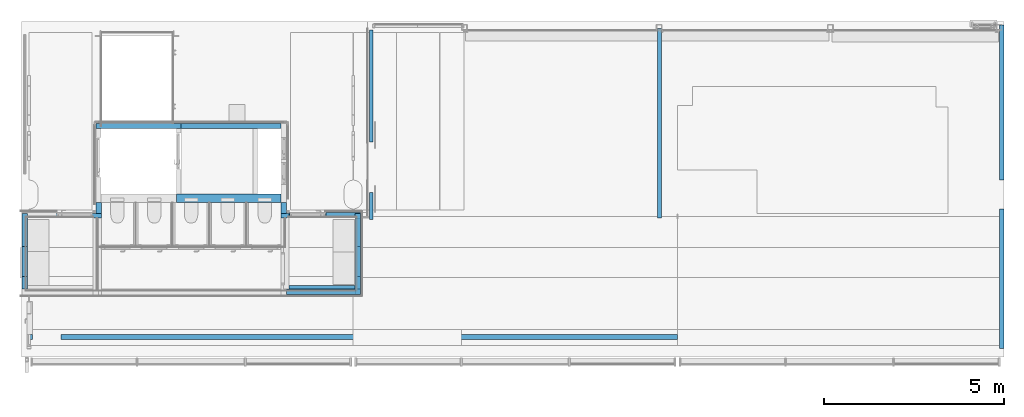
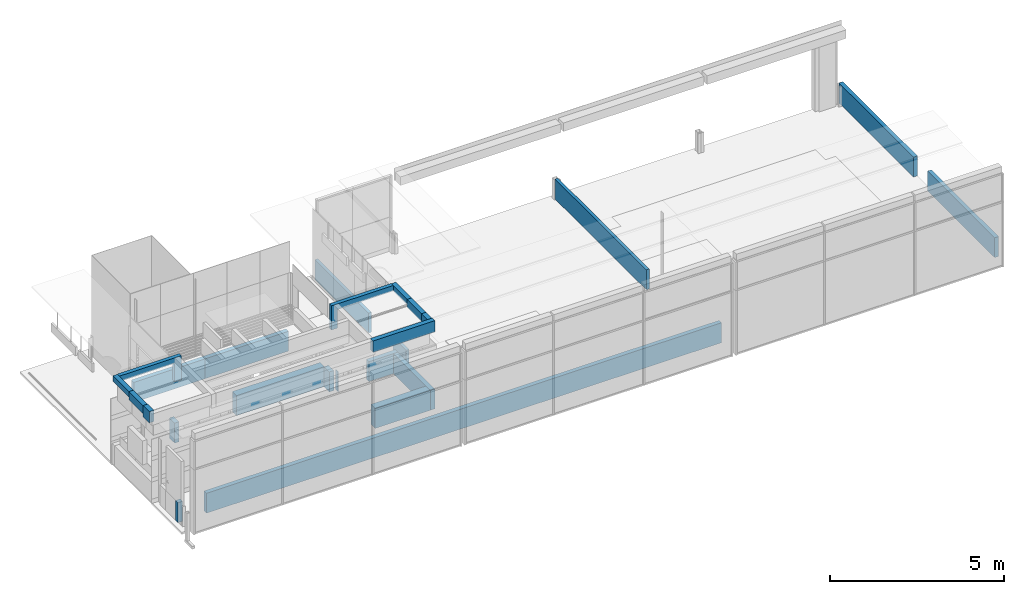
# One storey, part 17 of 26: 23 walls, 4 openings.
"""IFC2X3 building model written with IfcOpenShell, lengths in millimetres."""

from ifc_helpers import new_model, entity, si_unit, converted_unit, derived_unit, direction, frame, frame_2d, origin, origin_with_axes, place, context, subcontext, project, spatial, rectangle, extrude, clip, halfspace, faceted_brep, material, layer, layer_set, layer_usage, type_object, element, save


model = new_model("IFC2X3")

# Units and contexts
model_context = context("Model", 3, precision=0.01, world=frame((0.0, 4.29681676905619e-09, 0.0)), true_north=direction((4.01073788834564e-13, 1.0)))
plan_context = context("Plan", 3, precision=0.01, world=frame((0.0, 4.29681676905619e-09, 0.0)), true_north=direction((4.01073788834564e-13, 1.0)))
body_context = subcontext(model_context, "Body", "Model", "MODEL_VIEW")
ifc_project = project(units=[converted_unit("PLANEANGLEUNIT", "DEGREE", entity("IfcPositiveLengthMeasure", 0.0174532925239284), si_unit("PLANEANGLEUNIT", "RADIAN"), dimensions=[0, 0, 0, 0, 0, 0, 0]), si_unit("AREAUNIT", "SQUARE_METRE"), si_unit("LENGTHUNIT", "METRE", prefix="MILLI"), si_unit("MASSUNIT", "GRAM", prefix="KILO"), si_unit("POWERUNIT", "WATT"), si_unit("PRESSUREUNIT", "PASCAL", prefix="KILO"), si_unit("FORCEUNIT", "NEWTON", prefix="KILO"), si_unit("ELECTRICVOLTAGEUNIT", "VOLT"), si_unit("ELECTRICCURRENTUNIT", "AMPERE"), si_unit("THERMODYNAMICTEMPERATUREUNIT", "DEGREE_CELSIUS"), si_unit("TIMEUNIT", "SECOND"), si_unit("VOLUMEUNIT", "CUBIC_METRE"), derived_unit("LINEARVELOCITYUNIT", [(si_unit("LENGTHUNIT", "METRE"), 1), (si_unit("TIMEUNIT", "SECOND"), -1)]), derived_unit("VOLUMETRICFLOWRATEUNIT", [(si_unit("VOLUMEUNIT", "CUBIC_METRE"), 1), (si_unit("TIMEUNIT", "SECOND"), -1)]), derived_unit("THERMALTRANSMITTANCEUNIT", [(si_unit("POWERUNIT", "WATT"), 1), (si_unit("THERMODYNAMICTEMPERATUREUNIT", "KELVIN"), -1), (si_unit("AREAUNIT", "SQUARE_METRE"), -1)]), derived_unit("SOUNDPRESSUREUNIT", [(si_unit("PRESSUREUNIT", "PASCAL"), 1)])], contexts=[model_context, plan_context])

# Site, building, storey
site_placement = place(None, origin_with_axes())
site = spatial("IfcSite", under=ifc_project, at=site_placement, Name="ENGM", CompositionType="ELEMENT")
building_placement = place(site_placement, origin_with_axes())
building = spatial("IfcBuilding", under=site, at=building_placement, Name="TG", CompositionType="ELEMENT")
storey_placement = place(building_placement, frame((0.0, 0.0, 210200.0), z_axis=(0.0, 0.0, 1.0), x_axis=(1.0, 0.0, 0.0)))
storey = spatial("IfcBuildingStorey", under=building, at=storey_placement, Name="Nivå F - 0,7 m", CompositionType="ELEMENT", Elevation=210200.0)

# Walls
ifc_material_1 = material(Name="T2_Gips Protect F")
ifc_layer_1 = layer(ifc_material_1, 15.0)
ifc_material_2 = material(Name="T2_Gips Standard")
ifc_layer_2 = layer(ifc_material_2, 12.5)
ifc_material_3 = material(Name="_NSW Stålstender, uisolert")
ifc_layer_3 = layer(ifc_material_3, 100.0)
ifc_layer_4 = layer(ifc_material_1, 15.0)
ifc_layer_set_1 = layer_set([ifc_layer_1, ifc_layer_2, ifc_layer_3, ifc_layer_4], Name="Basic Wall:A241 - FSVF-100")
wall_type_1 = type_object("IfcWallType", Name="Basic Wall:A241 - FSVF-100", PredefinedType="STANDARD", material=ifc_layer_set_1)
wall_1_placement = place(storey_placement, frame((329001.249999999, 464602.500000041, 0.0), z_axis=(0.0, 0.0, 1.0), x_axis=(-1.0, 0.0, 0.0)))
element("IfcWall", 1, at=wall_1_placement, inside=storey, type_object=wall_type_1, Name="Basic Wall:A241 - FSVF-100", ObjectType="Basic Wall:A241 - FSVF-100", context=body_context, shape_type="Brep", body=[
    faceted_brep([(0.0, -71.25, 0.0), (2781.25000000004, -71.25, 0.0), (2781.25000000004, -71.25, 700.0), (0.0, -71.25, 700.0), (2781.25000000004, 71.25, 0.0), (785.74999999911, 71.2500000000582, 0.0), (655.74999999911, 71.2500000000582, 0.0), (0.0, 71.25, 0.0), (0.0, 71.25, 700.0), (2781.25000000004, 71.25, 700.0)], [[[0, 1, 2, 3]], [[4, 5, 6, 7, 8, 9]], [[1, 0, 7, 6, 5, 4]], [[1, 4, 9, 2]], [[7, 0, 3, 8]], [[3, 2, 9, 8]]]),
])
wall_2_placement = place(storey_placement, frame((326220.0, 464602.50000004, 0.0), z_axis=(0.0, 0.0, 1.0), x_axis=(-1.0, 0.0, 0.0)))
element("IfcWall", 2, at=wall_2_placement, inside=storey, type_object=wall_type_1, Name="Basic Wall:A241 - FSVF-100", ObjectType="Basic Wall:A241 - FSVF-100", context=body_context, shape_type="Brep", body=[
    faceted_brep([(0.0, -71.25, 0.0), (2359.74999999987, -71.2499999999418, 0.0), (2359.74999999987, -71.2499999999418, 700.0), (0.0, -71.25, 700.0), (2359.74999999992, 71.2500000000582, 0.0), (2217.24999999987, 71.2500000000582, 0.0), (130.0, 71.2500000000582, 0.0), (0.0, 71.25, 0.0), (0.0, 71.25, 700.0), (2359.74999999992, 71.2500000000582, 700.0)], [[[0, 1, 2, 3]], [[4, 5, 6, 7, 8, 9]], [[1, 0, 7, 6, 5, 4]], [[1, 4, 9, 2]], [[7, 0, 3, 8]], [[3, 2, 9, 8]]]),
])
ifc_layer_5 = layer(ifc_material_1, 15.0)
ifc_layer_6 = layer(ifc_material_1, 15.0)
ifc_material_4 = material(Name="_NSW Stålstender, isolert uten skravur")
ifc_layer_7 = layer(ifc_material_4, 200.0)
ifc_material_5 = material(Name="T2_Gips Fibergips")
ifc_layer_8 = layer(ifc_material_5, 12.5)
ifc_layer_set_2 = layer_set([ifc_layer_5, ifc_layer_6, ifc_layer_7, ifc_layer_8], Name="Basic Wall:A241 - FVR-200 (T1)")
wall_type_2 = type_object("IfcWallType", Name="Basic Wall:A241 - FVR-200 (T1)", PredefinedType="STANDARD", material=ifc_layer_set_2)
wall_3_placement = place(storey_placement, frame((326090.0, 462600.000000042, 0.0), z_axis=(0.0, 0.0, 1.0), x_axis=(1.0, 0.0, 0.0)))
element("IfcWall", 3, at=wall_3_placement, inside=storey, type_object=wall_type_2, Name="Basic Wall:A241 - FVR-200 (T1)", ObjectType="Basic Wall:A241 - FVR-200 (T1)", context=body_context, shape_type="Brep", body=[
    faceted_brep([(0.0, -121.249999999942, 0.0), (857.500000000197, -121.249999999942, 0.0), (982.500000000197, -121.249999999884, 0.0), (1880.5000000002, -121.249999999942, 0.0), (2005.5000000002, -121.249999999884, 0.0), (2903.50000000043, -121.249999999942, 0.0), (2903.50000000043, -121.249999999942, 700.0), (0.0, -121.249999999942, 700.0), (2911.25000000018, 121.250000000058, 0.0), (2255.49999999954, 121.250000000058, 0.0), (2125.49999999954, 121.250000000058, 0.0), (130.0, 121.250000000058, 0.0), (0.0, 121.250000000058, 0.0), (0.0, 121.250000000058, 700.0), (2911.25000000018, 121.250000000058, 700.0), (2911.25000000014, -120.399999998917, 0.0), (2903.50000000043, -120.399999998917, 0.0), (2903.50000000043, -120.399999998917, 700.0), (2911.25000000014, -120.399999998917, 700.0)], [[[0, 1, 2, 3, 4, 5, 6, 7]], [[8, 9, 10, 11, 12, 13, 14]], [[1, 0, 12, 11, 10, 9, 8, 15, 16, 5, 4, 3, 2]], [[5, 16, 17, 6]], [[12, 0, 7, 13]], [[16, 15, 18, 17]], [[15, 8, 14, 18]], [[7, 6, 17, 18, 14, 13]]]),
])
ifc_material_6 = material(Name="Plate - Gips")
ifc_layer_9 = layer(ifc_material_6, 12.5)
ifc_layer_10 = layer(ifc_material_6, 12.5)
ifc_layer_11 = layer(ifc_material_3, 200.0)
ifc_layer_12 = layer(ifc_material_6, 12.5)
ifc_layer_13 = layer(ifc_material_6, 12.5)
ifc_layer_set_3 = layer_set([ifc_layer_9, ifc_layer_10, ifc_layer_11, ifc_layer_12, ifc_layer_13], Name="Basic Wall:A241 - Eksisterende - GSVS-50")
ifc_layer_usage_1 = layer_usage(ifc_layer_set_3, "AXIS2", "NEGATIVE", 125.0)
wall_type_3 = type_object("IfcWallType", Name="Basic Wall:A241 - Eksisterende - GSVS-50", PredefinedType="STANDARD", material=ifc_layer_set_3)
wall_4_placement = place(storey_placement, frame((329218.5, 460049.600000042, 0.0), z_axis=(0.0, 0.0, 1.0), x_axis=(1.0, 0.0, 0.0)))
element("IfcWallStandardCase", 4, at=wall_4_placement, inside=storey, type_object=wall_type_3, material=ifc_layer_usage_1, Name="Basic Wall:A241 - Eksisterende - GSVS-50", ObjectType="Basic Wall:A241 - Eksisterende - GSVS-50", context=body_context, shape_type="Clipping", body=[
    clip(extrude(rectangle(XDim=1830.49999999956, YDim=249.999999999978, at=frame_2d((915.249999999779, -1.07434061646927e-11), x_axis=(-1.0, 0.0))), origin(), (0.0, 0.0, 1.0), 700.000000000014), halfspace(origin(), True)),
])
ifc_layer_14 = layer(ifc_material_6, 12.5)
ifc_layer_15 = layer(ifc_material_6, 12.5)
ifc_layer_16 = layer(ifc_material_3, 100.0)
ifc_layer_17 = layer(ifc_material_6, 12.5)
ifc_layer_18 = layer(ifc_material_6, 12.5)
ifc_layer_set_4 = layer_set([ifc_layer_14, ifc_layer_15, ifc_layer_16, ifc_layer_17, ifc_layer_18], Name="Basic Wall:A241 - Eksisterende - GSVS-30")
ifc_layer_usage_2 = layer_usage(ifc_layer_set_4, "AXIS2", "NEGATIVE", 75.0)
wall_type_4 = type_object("IfcWallType", Name="Basic Wall:A241 - Eksisterende - GSVS-30", PredefinedType="STANDARD", material=ifc_layer_set_4)
wall_5_placement = place(storey_placement, frame((331124.0, 462049.600000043, 0.0), z_axis=(0.0, 0.0, 1.0), x_axis=(0.0, -1.0, 0.0)))
element("IfcWallStandardCase", 5, at=wall_5_placement, inside=storey, type_object=wall_type_4, material=ifc_layer_usage_2, Name="Basic Wall:A241 - Eksisterende - GSVS-30", ObjectType="Basic Wall:A241 - Eksisterende - GSVS-30", context=body_context, shape_type="Clipping", body=[
    clip(extrude(rectangle(XDim=2125.00000000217, YDim=150.000000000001, at=frame_2d((1062.50000000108, -5.90816284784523e-11), x_axis=(-1.0, 0.0))), origin(), (0.0, 0.0, 1.0), 700.000000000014), halfspace(origin(), True)),
])

# Wall, opening
ifc_layer_usage_3 = layer_usage(ifc_layer_set_4, "AXIS2", "NEGATIVE", 75.0)
wall_6_placement = place(storey_placement, frame((331199.0, 462124.600000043, 0.0), z_axis=(0.0, 0.0, 1.0), x_axis=(-1.0, 0.0, 0.0)))
wall_6 = element("IfcWallStandardCase", 6, at=wall_6_placement, inside=storey, type_object=wall_type_4, material=ifc_layer_usage_3, Name="Basic Wall:A241 - Eksisterende - GSVS-30", ObjectType="Basic Wall:A241 - Eksisterende - GSVS-30", context=body_context, shape_type="Clipping", body=[
    clip(extrude(rectangle(XDim=150.000000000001, YDim=1980.49999999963, at=frame_2d((990.249999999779, -1.51487711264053e-11), x_axis=(0.0, -1.0))), origin(), (0.0, 0.0, 1.0), 700.000000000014), halfspace(origin(), True)),
])
opening_1_placement = place(wall_6_placement, frame((1969.99999480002, 75.0, 0.0), z_axis=(0.0, 0.0, 1.0), x_axis=(1.0, 0.0, 0.0)))
element("IfcOpeningElement", 7, at=opening_1_placement, cuts=wall_6, Name="A20 - Slagdør - Enkel:A243 - DI_LTO - 0990 x 2240 mm:1", ObjectType="Opening", context=body_context, shape_type="SweptSolid", body=[
    extrude(rectangle(XDim=2259.99999999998, YDim=1010.0, at=frame_2d((1129.99999999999, 505.0), x_axis=(1.0, 0.0))), frame((0.0, 0.0, 0.0), z_axis=(0.0, -1.0, 0.0), x_axis=(0.0, 0.0, 1.0)), (0.0, 0.0, 1.0), 150.0),
])

# Walls
ifc_layer_usage_4 = layer_usage(ifc_layer_set_4, "AXIS2", "POSITIVE", -75.0)
wall_7_placement = place(storey_placement, frame((329068.500000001, 462173.599999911, 0.0), z_axis=(0.0, 0.0, 1.0), x_axis=(0.0, 1.0, 0.0)))
element("IfcWallStandardCase", 8, at=wall_7_placement, inside=storey, type_object=wall_type_4, material=ifc_layer_usage_4, Name="Basic Wall:A241 - Eksisterende - GSVS-30", ObjectType="Basic Wall:A241 - Eksisterende - GSVS-30", context=body_context, shape_type="Clipping", body=[
    clip(extrude(rectangle(XDim=306.000000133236, YDim=150.000000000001, at=frame_2d((153.000000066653, -2.65742983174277e-11), x_axis=(-1.0, 0.0))), origin(), (0.0, 0.0, 1.0), 700.000000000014), halfspace(origin(), True)),
])
ifc_layer_usage_5 = layer_usage(ifc_layer_set_4, "AXIS2", "POSITIVE", -75.0)
wall_8_placement = place(storey_placement, frame((323931.5, 462478.600000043, 0.0), z_axis=(0.0, 0.0, 1.0), x_axis=(0.0, -1.0, 0.0)))
element("IfcWallStandardCase", 9, at=wall_8_placement, inside=storey, type_object=wall_type_4, material=ifc_layer_usage_5, Name="Basic Wall:A241 - Eksisterende - GSVS-30", ObjectType="Basic Wall:A241 - Eksisterende - GSVS-30", context=body_context, shape_type="Clipping", body=[
    clip(extrude(rectangle(XDim=304.999999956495, YDim=150.000000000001, at=frame_2d((152.499999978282, -2.6801671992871e-11), x_axis=(-1.0, 0.0))), origin(), (0.0, 0.0, 1.0), 700.000000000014), halfspace(origin(), True)),
])
ifc_layer_19 = layer(ifc_material_6, 12.5)
ifc_layer_20 = layer(ifc_material_3, 75.0)
ifc_layer_21 = layer(ifc_material_6, 12.5)
ifc_layer_set_5 = layer_set([ifc_layer_19, ifc_layer_20, ifc_layer_21], Name="Basic Wall:A241 - Eksisterende - GSVS-11")
ifc_layer_usage_6 = layer_usage(ifc_layer_set_5, "AXIS2", "NEGATIVE", 50.0)
wall_type_5 = type_object("IfcWallType", Name="Basic Wall:A241 - Eksisterende - GSVS-11", PredefinedType="STANDARD", material=ifc_layer_set_5)
wall_9_placement = place(storey_placement, frame((339502.157623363, 467303.499999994, 0.0), z_axis=(0.0, 0.0, 1.0), x_axis=(0.0, -1.0, 0.0)))
element("IfcWallStandardCase", 10, at=wall_9_placement, inside=storey, type_object=wall_type_5, material=ifc_layer_usage_6, Name="Basic Wall:A241 - Eksisterende - GSVS-11", ObjectType="Basic Wall:A241 - Eksisterende - GSVS-11", context=body_context, shape_type="Clipping", body=[
    clip(extrude(rectangle(XDim=5252.80408787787, YDim=99.9999999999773, at=frame_2d((2626.40204393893, 3.46531692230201e-11), x_axis=(-1.0, 0.0))), origin(), (0.0, 0.0, 1.0), 700.000000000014), halfspace(origin(), True)),
])

# Wall, openings
ifc_layer_usage_7 = layer_usage(ifc_layer_set_5, "AXIS2", "NEGATIVE", 50.0)
wall_10_placement = place(storey_placement, frame((331498.69226286, 467260.742801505, 0.0), z_axis=(0.0, 0.0, 1.0), x_axis=(0.0, -1.0, 0.0)))
wall_10 = element("IfcWallStandardCase", 11, at=wall_10_placement, inside=storey, type_object=wall_type_5, material=ifc_layer_usage_7, Name="Basic Wall:A241 - Eksisterende - GSVS-11", ObjectType="Basic Wall:A241 - Eksisterende - GSVS-11", context=body_context, shape_type="Clipping", body=[
    clip(extrude(rectangle(XDim=5253.86896894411, YDim=99.9999999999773, at=frame_2d((2626.93448447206, 3.46531692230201e-11), x_axis=(1.0, 0.0))), origin(), (0.0, 0.0, 1.0), 700.000000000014), halfspace(origin(), True)),
])
opening_2_placement = place(wall_10_placement, frame((4497.4017700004, 50.0, 0.0), z_axis=(0.0, 0.0, 1.0), x_axis=(1.0, 0.0, 0.0)))
element("IfcOpeningElement", 12, at=opening_2_placement, cuts=wall_10, Name="single_panel_sliding_door_whafele_hrdw_parametric_2015:single_panel_sliding_door_whafele_hrdw_parametric_7m:1", ObjectType="Opening", context=body_context, shape_type="SweptSolid", body=[
    extrude(rectangle(XDim=2133.6, YDim=699.999999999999, at=frame_2d((1066.8, 350.000000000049), x_axis=(1.0, 0.0))), frame((0.0, 0.0, 0.0), z_axis=(0.0, -1.0, 0.0), x_axis=(0.0, 0.0, 1.0)), (0.0, 0.0, 1.0), 100.0),
])
opening_3_placement = place(wall_10_placement, frame((3797.40177000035, 50.0, 0.0), z_axis=(0.0, 0.0, 1.0), x_axis=(1.0, 0.0, 0.0)))
element("IfcOpeningElement", 13, at=opening_3_placement, cuts=wall_10, Name="single_panel_sliding_door_whafele_hrdw_parametric_2015:single_panel_sliding_door_whafele_hrdw_parametric_7m:1", ObjectType="Opening", context=body_context, shape_type="SweptSolid", body=[
    extrude(rectangle(XDim=2133.6, YDim=699.999999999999, at=frame_2d((1066.8, 350.0), x_axis=(1.0, 0.0))), frame((0.0, 0.0, 0.0), z_axis=(0.0, -1.0, 0.0), x_axis=(0.0, 0.0, 1.0)), (0.0, 0.0, 1.0), 100.0),
])

# Walls
ifc_layer_usage_8 = layer_usage(ifc_layer_set_5, "AXIS2", "NEGATIVE", 50.0)
wall_11_placement = place(storey_placement, frame((339502.157623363, 467303.499999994, 0.0), z_axis=(0.0, 0.0, 1.0), x_axis=(0.0, -1.0, 0.0)))
element("IfcWallStandardCase", 14, at=wall_11_placement, inside=storey, type_object=wall_type_5, material=ifc_layer_usage_8, Name="Basic Wall:A241 - Eksisterende - GSVS-11", ObjectType="Basic Wall:A241 - Eksisterende - GSVS-11", context=body_context, shape_type="Clipping", body=[
    clip(extrude(rectangle(XDim=5252.80408787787, YDim=99.9999999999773, at=frame_2d((2626.40204393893, 3.46531692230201e-11), x_axis=(-1.0, 0.0))), origin(), (0.0, 0.0, 1.0), 700.000000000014), halfspace(origin(), True)),
])
ifc_layer_22 = layer(ifc_material_6, 12.5)
ifc_layer_23 = layer(ifc_material_3, 100.0)
ifc_layer_24 = layer(ifc_material_6, 12.5)
ifc_layer_set_6 = layer_set([ifc_layer_22, ifc_layer_23, ifc_layer_24], Name="Basic Wall:A241 - Skjørt - SVS-100 S")
wall_type_6 = type_object("IfcWallType", Name="Basic Wall:A241 - Skjørt - SVS-100 S", PredefinedType="STANDARD", material=ifc_layer_set_6)
wall_12_placement = place(storey_placement, frame((324006.25, 462111.100000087, 2250.0), z_axis=(0.0, 0.0, 1.0), x_axis=(-1.0, 0.0, 0.0)))
element("IfcWall", 15, at=wall_12_placement, inside=storey, type_object=wall_type_6, Name="Basic Wall:A241 - Skjørt - SVS-100 S", ObjectType="Basic Wall:A241 - Skjørt - SVS-100 S", context=body_context, shape_type="Brep", body=[
    faceted_brep([(2051.24999999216, -62.4999999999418, 844.999999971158), (0.0, -62.5, 844.999999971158), (0.0, -62.5, 0.0), (224.750000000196, -62.5, 0.0), (224.750000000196, -62.5, 650.0), (2051.24999999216, -62.4999999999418, 650.0), (0.0, 62.5, 844.999999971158), (2051.24999999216, 62.5000000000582, 844.999999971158), (2051.24999999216, 62.5000000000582, 650.0), (224.750000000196, 62.5, 650.0), (224.750000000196, 62.5, 0.0), (0.0, 62.5, 0.0)], [[[0, 1, 2, 3, 4, 5]], [[6, 7, 8, 9, 10, 11]], [[2, 11, 10, 3]], [[7, 0, 5, 8]], [[1, 0, 7, 6]], [[2, 1, 6, 11]], [[9, 4, 3, 10]], [[4, 9, 8, 5]]]),
])
wall_13_placement = place(storey_placement, frame((331049.000000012, 462111.099999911, 2250.0), z_axis=(0.0, 0.0, 1.0), x_axis=(-1.0, 0.0, 0.0)))
element("IfcWall", 16, at=wall_13_placement, inside=storey, type_object=wall_type_6, Name="Basic Wall:A241 - Skjørt - SVS-100 S", ObjectType="Basic Wall:A241 - Skjørt - SVS-100 S", context=body_context, shape_type="Brep", body=[
    faceted_brep([(2055.50000001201, -62.4999999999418, 0.0), (2055.50000001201, -62.4999999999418, 844.999999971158), (0.0, -62.4999999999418, 844.999999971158), (0.0, -62.4999999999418, 650.0), (1855.50000001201, -62.4999999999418, 650.0), (1855.50000001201, -62.4999999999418, 0.0), (2055.50000001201, 62.5000000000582, 844.999999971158), (2055.50000001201, 62.5000000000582, 0.0), (1855.50000001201, 62.5000000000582, 0.0), (1855.50000001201, 62.5000000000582, 650.0), (0.0, 62.5000000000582, 650.0), (0.0, 62.5000000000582, 844.999999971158)], [[[0, 1, 2, 3, 4, 5]], [[6, 7, 8, 9, 10, 11]], [[7, 0, 5, 8]], [[1, 0, 7, 6]], [[2, 1, 6, 11]], [[2, 11, 10, 3]], [[9, 4, 3, 10]], [[4, 9, 8, 5]]]),
])
ifc_layer_25 = layer(ifc_material_6, 12.5)
ifc_layer_26 = layer(ifc_material_6, 12.5)
ifc_layer_27 = layer(ifc_material_3, 100.0)
ifc_layer_28 = layer(ifc_material_6, 12.5)
ifc_layer_29 = layer(ifc_material_6, 12.5)
ifc_layer_set_7 = layer_set([ifc_layer_25, ifc_layer_26, ifc_layer_27, ifc_layer_28, ifc_layer_29], Name="Basic Wall:A241 - Skjørt - SVS-101 S")
ifc_layer_usage_9 = layer_usage(ifc_layer_set_7, "AXIS2", "POSITIVE", -75.0)
wall_type_7 = type_object("IfcWallType", Name="Basic Wall:A241 - Skjørt - SVS-101 S", PredefinedType="STANDARD", material=ifc_layer_set_7)
wall_14_placement = place(storey_placement, frame((331199.000000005, 459999.999999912, 2700.0), z_axis=(0.0, 0.0, 1.0), x_axis=(-1.0, 0.0, 0.0)))
element("IfcWallStandardCase", 17, at=wall_14_placement, inside=storey, type_object=wall_type_7, material=ifc_layer_usage_9, Name="Basic Wall:A241 - Skjørt - SVS-101 S", ObjectType="Basic Wall:A241 - Skjørt - SVS-101 S", context=body_context, shape_type="SweptSolid", body=[
    extrude(rectangle(XDim=2055.50000000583, YDim=150.000000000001, at=frame_2d((1027.75000000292, -2.95514723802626e-11), x_axis=(-1.0, 0.0))), origin(), (0.0, 0.0, 1.0), 394.999999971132),
])
ifc_layer_usage_10 = layer_usage(ifc_layer_set_7, "AXIS2", "POSITIVE", -75.0)
wall_15_placement = place(storey_placement, frame((321880.000000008, 461259.999999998, 2900.0), z_axis=(0.0, 0.0, 1.0), x_axis=(0.0, 1.0, 0.0)))
element("IfcWallStandardCase", 18, at=wall_15_placement, inside=storey, type_object=wall_type_7, material=ifc_layer_usage_10, Name="Basic Wall:A241 - Skjørt - SVS-101 S", ObjectType="Basic Wall:A241 - Skjørt - SVS-101 S", context=body_context, shape_type="SweptSolid", body=[
    extrude(rectangle(XDim=913.60000008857, YDim=150.000000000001, at=frame_2d((456.800000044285, -3.24931193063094e-11), x_axis=(-1.0, 0.0))), origin(), (0.0, 0.0, 1.0), 183.00000000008),
])
ifc_layer_usage_11 = layer_usage(ifc_layer_set_7, "AXIS2", "POSITIVE", -75.0)
wall_16_placement = place(storey_placement, frame((321880.000000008, 460429.999999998, 2800.0), z_axis=(0.0, 0.0, 1.0), x_axis=(0.0, 1.0, 0.0)))
element("IfcWallStandardCase", 19, at=wall_16_placement, inside=storey, type_object=wall_type_7, material=ifc_layer_usage_11, Name="Basic Wall:A241 - Skjørt - SVS-101 S", ObjectType="Basic Wall:A241 - Skjørt - SVS-101 S", context=body_context, shape_type="SweptSolid", body=[
    extrude(rectangle(XDim=830.000000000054, YDim=150.000000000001, at=frame_2d((415.000000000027, -3.26849658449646e-11), x_axis=(-1.0, 0.0))), origin(), (0.0, 0.0, 1.0), 283.000000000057),
])
ifc_layer_usage_12 = layer_usage(ifc_layer_set_7, "AXIS2", "POSITIVE", -75.0)
wall_17_placement = place(storey_placement, frame((321880.000000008, 460074.999999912, 2700.0), z_axis=(0.0, 0.0, 1.0), x_axis=(0.0, 1.0, 0.0)))
element("IfcWallStandardCase", 20, at=wall_17_placement, inside=storey, type_object=wall_type_7, material=ifc_layer_usage_12, Name="Basic Wall:A241 - Skjørt - SVS-101 S", ObjectType="Basic Wall:A241 - Skjørt - SVS-101 S", context=body_context, shape_type="SweptSolid", body=[
    extrude(rectangle(XDim=355.000000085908, YDim=150.000000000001, at=frame_2d((177.500000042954, -3.38076233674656e-11), x_axis=(-1.0, 0.0))), origin(), (0.0, 0.0, 1.0), 394.999999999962),
])
ifc_layer_usage_13 = layer_usage(ifc_layer_set_7, "AXIS2", "POSITIVE", -75.0)
wall_18_placement = place(storey_placement, frame((331124.000000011, 460074.999999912, 2700.0), z_axis=(0.0, 0.0, 1.0), x_axis=(0.0, 1.0, 0.0)))
element("IfcWallStandardCase", 21, at=wall_18_placement, inside=storey, type_object=wall_type_7, material=ifc_layer_usage_13, Name="Basic Wall:A241 - Skjørt - SVS-101 S", ObjectType="Basic Wall:A241 - Skjørt - SVS-101 S", context=body_context, shape_type="SweptSolid", body=[
    extrude(rectangle(XDim=355.000000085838, YDim=150.000000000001, at=frame_2d((177.500000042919, -3.38076233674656e-11), x_axis=(-1.0, 0.0))), origin(), (0.0, 0.0, 1.0), 383.000000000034),
])
ifc_layer_usage_14 = layer_usage(ifc_layer_set_7, "AXIS2", "POSITIVE", -75.0)
wall_19_placement = place(storey_placement, frame((331124.000000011, 460429.999999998, 2800.0), z_axis=(0.0, 0.0, 1.0), x_axis=(0.0, 1.0, 0.0)))
element("IfcWallStandardCase", 22, at=wall_19_placement, inside=storey, type_object=wall_type_7, material=ifc_layer_usage_14, Name="Basic Wall:A241 - Skjørt - SVS-101 S", ObjectType="Basic Wall:A241 - Skjørt - SVS-101 S", context=body_context, shape_type="SweptSolid", body=[
    extrude(rectangle(XDim=830.000000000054, YDim=150.000000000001, at=frame_2d((415.000000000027, -3.26849658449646e-11), x_axis=(-1.0, 0.0))), origin(), (0.0, 0.0, 1.0), 283.000000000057),
])
ifc_layer_usage_15 = layer_usage(ifc_layer_set_7, "AXIS2", "POSITIVE", -75.0)
wall_20_placement = place(storey_placement, frame((331124.000000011, 461259.999999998, 2900.0), z_axis=(0.0, 0.0, 1.0), x_axis=(0.0, 1.0, 0.0)))
element("IfcWallStandardCase", 23, at=wall_20_placement, inside=storey, type_object=wall_type_7, material=ifc_layer_usage_15, Name="Basic Wall:A241 - Skjørt - SVS-101 S", ObjectType="Basic Wall:A241 - Skjørt - SVS-101 S", context=body_context, shape_type="SweptSolid", body=[
    extrude(rectangle(XDim=913.60000008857, YDim=150.000000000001, at=frame_2d((456.800000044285, -3.24931193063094e-11), x_axis=(-1.0, 0.0))), origin(), (0.0, 0.0, 1.0), 183.00000000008),
])
ifc_material_7 = material(Name="T2_Fibersement")
ifc_layer_30 = layer(ifc_material_7, 15.0)
ifc_material_8 = material(Name="T2_X-finer")
ifc_layer_31 = layer(ifc_material_8, 12.0)
ifc_layer_32 = layer(ifc_material_3, 75.0)
ifc_layer_33 = layer(ifc_material_8, 12.0)
ifc_layer_34 = layer(ifc_material_7, 15.0)
ifc_layer_set_8 = layer_set([ifc_layer_30, ifc_layer_31, ifc_layer_32, ifc_layer_33, ifc_layer_34], Name="Basic Wall:A241 - V1")
ifc_layer_usage_16 = layer_usage(ifc_layer_set_8, "AXIS2", "NEGATIVE", 64.5)
wall_type_8 = type_object("IfcWallType", Name="Basic Wall:A241 - V1", PredefinedType="STANDARD", material=ifc_layer_set_8)
wall_21_placement = place(storey_placement, frame((349000.000000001, 467399.999999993, 0.0), z_axis=(0.0, 0.0, 1.0), x_axis=(0.0, -1.0, 0.0)))
element("IfcWallStandardCase", 24, at=wall_21_placement, inside=storey, type_object=wall_type_8, material=ifc_layer_usage_16, Name="Basic Wall:A241 - V1", ObjectType="Basic Wall:A241 - V1", context=body_context, shape_type="SweptSolid", body=[
    extrude(rectangle(XDim=128.999999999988, YDim=4299.99999999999, at=frame_2d((0.0, -3.45607986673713e-11), x_axis=(1.0, 0.0))), frame((2150.0, 0.0, 0.0), z_axis=(0.0, 0.0, 1.0), x_axis=(0.0, 1.0, 0.0)), (0.0, 0.0, 1.0), 700.000000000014),
])
ifc_layer_usage_17 = layer_usage(ifc_layer_set_8, "AXIS2", "POSITIVE", -64.5)
wall_22_placement = place(storey_placement, frame((349000.000000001, 458432.999999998, 0.0), z_axis=(0.0, 0.0, 1.0), x_axis=(0.0, 1.0, 0.0)))
element("IfcWallStandardCase", 25, at=wall_22_placement, inside=storey, type_object=wall_type_8, material=ifc_layer_usage_17, Name="Basic Wall:A241 - V1", ObjectType="Basic Wall:A241 - V1", context=body_context, shape_type="Clipping", body=[
    clip(extrude(rectangle(XDim=3867.00000001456, YDim=128.999999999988, at=frame_2d((1933.50000000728, 0.0), x_axis=(-1.0, 0.0))), origin(), (0.0, 0.0, 1.0), 700.000000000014), halfspace(origin(), True)),
])

# Wall, opening
ifc_layer_35 = layer(ifc_material_7, 15.0)
ifc_layer_36 = layer(ifc_material_3, 100.0)
ifc_layer_37 = layer(ifc_material_8, 12.0)
ifc_layer_38 = layer(ifc_material_7, 15.0)
ifc_layer_set_9 = layer_set([ifc_layer_35, ifc_layer_36, ifc_layer_37, ifc_layer_38], Name="Basic Wall:A241 - V2")
ifc_layer_usage_18 = layer_usage(ifc_layer_set_9, "AXIS2", "POSITIVE", -71.0)
wall_type_9 = type_object("IfcWallType", Name="Basic Wall:A241 - V2", PredefinedType="STANDARD", material=ifc_layer_set_9)
wall_23_placement = place(storey_placement, frame((321950.000000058, 458740.999999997, 0.0), z_axis=(0.0, 0.0, 1.0), x_axis=(1.0, 0.0, 0.0)))
wall_23 = element("IfcWallStandardCase", 26, at=wall_23_placement, inside=storey, type_object=wall_type_9, material=ifc_layer_usage_18, Name="Basic Wall:A241 - V2", ObjectType="Basic Wall:A241 - V2", context=body_context, shape_type="Clipping", body=[
    clip(extrude(rectangle(XDim=18049.9999999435, YDim=142.000000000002, at=frame_2d((9024.99999997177, -4.60289584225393e-11), x_axis=(1.0, 0.0))), origin(), (0.0, 0.0, 1.0), 700.000000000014), halfspace(origin(), True)),
])
opening_4_placement = place(wall_23_placement, origin_with_axes())
element("IfcOpeningElement", 27, at=opening_4_placement, cuts=wall_23, Name="Basic Wall:A241 - V2", ObjectType="Opening", context=body_context, shape_type="SweptSolid", body=[
    extrude(rectangle(XDim=2100.00000000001, YDim=800.000000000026, at=frame_2d((0.0, 3.46744855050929e-11), x_axis=(1.0, 0.0))), frame((542.0, -71.0, 1050.0), z_axis=(0.0, 1.0, 0.0), x_axis=(0.0, 0.0, -1.0)), (0.0, 0.0, 1.0), 141.999999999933),
])

save(model, "model.ifc")
